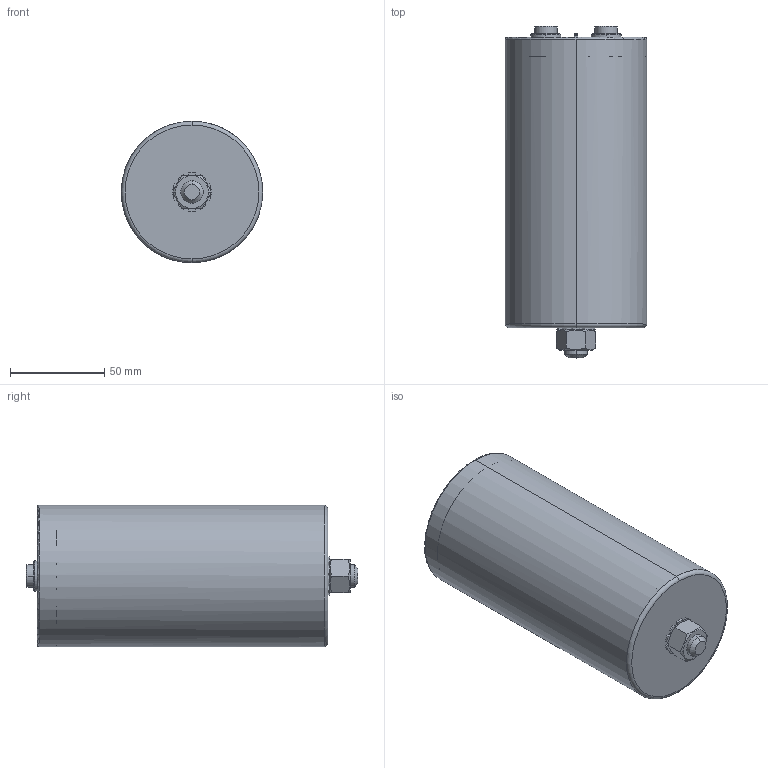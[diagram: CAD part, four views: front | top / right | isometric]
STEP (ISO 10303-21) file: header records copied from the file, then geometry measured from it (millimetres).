
FILE_DESCRIPTION (( 'STEP AP214' ), '1' );
FILE_NAME ('B25690 Series ¦µ75 Hc154 Ht160.STEP', '2025-01-14T07:06:12', ( '' ), ( '' ), 'SwSTEP 2.0', 'SolidWorks 2019', '' );
FILE_SCHEMA (( 'AUTOMOTIVE_DESIGN' ));
Length unit declared in the file: millimetre
Products named in the file (1): B25690 Series 朴75 Hc154 Ht160
Bounding box: 75 x 176 x 75 mm (x, y, z)
Volume: 65078.1 mm3; surface area: 100083.7 mm2
Topology: 1 solids, 3 shells, 306 faces, 787 edges, 500 vertices
Faces by surface type: plane 156, cylinder 98, cone 40, torus 12
Entity records: 9615 total; most frequent: CARTESIAN_POINT 2026, DIRECTION 1623, ORIENTED_EDGE 1566, EDGE_CURVE 783, AXIS2_PLACEMENT_3D 617, VERTEX_POINT 500, LINE 389, VECTOR 389
